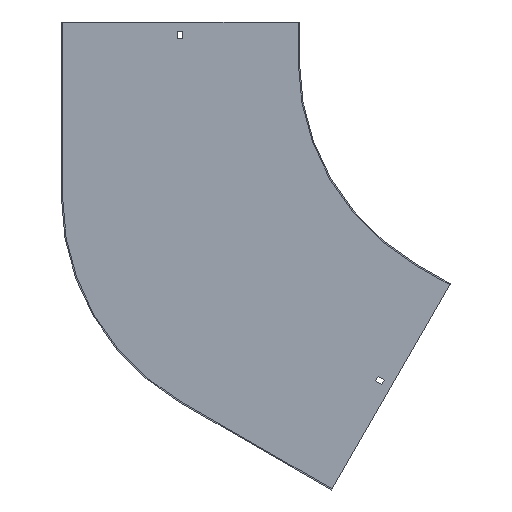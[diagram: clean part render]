
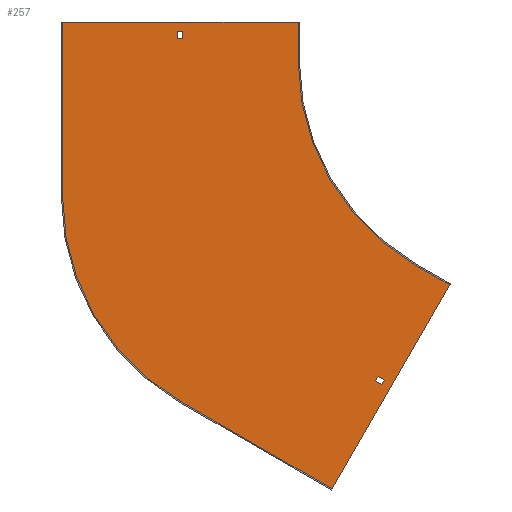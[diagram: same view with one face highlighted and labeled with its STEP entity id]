
A CAD part, front view. The second image highlights one B-rep face of the part: STEP entity #257.
In plain terms, the highlighted planar face has unit normal (0, -1, 0).
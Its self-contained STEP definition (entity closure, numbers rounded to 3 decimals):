
#1 = DIRECTION ( 'NONE',  ( 0., 0., -1. ) ) ;
#2 = ORIENTED_EDGE ( 'NONE', *, *, #575, .F. ) ;
#14 = CARTESIAN_POINT ( 'NONE',  ( -600., -1.5, -173.205 ) ) ;
#22 = VECTOR ( 'NONE', #772, 1000. ) ;
#29 = CARTESIAN_POINT ( 'NONE',  ( -600., -1.5, 50. ) ) ;
#32 = LINE ( 'NONE', #98, #22 ) ;
#35 = LINE ( 'NONE', #769, #748 ) ;
#40 = EDGE_CURVE ( 'NONE', #225, #345, #535, .T. ) ;
#46 = EDGE_CURVE ( 'NONE', #728, #669, #411, .T. ) ;
#67 = CARTESIAN_POINT ( 'NONE',  ( -453.25, -1.5, 0. ) ) ;
#89 = EDGE_CURVE ( 'NONE', #332, #242, #35, .T. ) ;
#94 = DIRECTION ( 'NONE',  ( -0.866, 0., 0.5 ) ) ;
#96 = ORIENTED_EDGE ( 'NONE', *, *, #595, .F. ) ;
#97 = DIRECTION ( 'NONE',  ( -0.866, 0., 0.5 ) ) ;
#98 = CARTESIAN_POINT ( 'NONE',  ( 25.115, -1.5, -14.5 ) ) ;
#104 = CARTESIAN_POINT ( 'NONE',  ( -256.699, -1.5, -544.615 ) ) ;
#109 = CARTESIAN_POINT ( 'NONE',  ( -198.26, -1.5, -401.397 ) ) ;
#115 = EDGE_CURVE ( 'NONE', #669, #511, #774, .T. ) ;
#123 = ORIENTED_EDGE ( 'NONE', *, *, #46, .F. ) ;
#125 = CARTESIAN_POINT ( 'NONE',  ( -226.625, -1.5, -392.526 ) ) ;
#148 = EDGE_CURVE ( 'NONE', #511, #229, #32, .T. ) ;
#149 = DIRECTION ( 'NONE',  ( 0., 0., -1. ) ) ;
#156 = DIRECTION ( 'NONE',  ( 0., 0., -1. ) ) ;
#162 = CARTESIAN_POINT ( 'NONE',  ( -223.375, -1.5, -386.897 ) ) ;
#166 = CARTESIAN_POINT ( 'NONE',  ( -446.75, -1.5, 38. ) ) ;
#168 = VECTOR ( 'NONE', #272, 1000. ) ;
#174 = CARTESIAN_POINT ( 'NONE',  ( -190.466, -1.5, -405.897 ) ) ;
#175 = EDGE_CURVE ( 'NONE', #519, #224, #675, .T. ) ;
#178 = EDGE_LOOP ( 'NONE', ( #468, #540, #622, #302 ) ) ;
#180 = VECTOR ( 'NONE', #631, 1000. ) ;
#185 = CARTESIAN_POINT ( 'NONE',  ( -150., -1.5, -259.808 ) ) ;
#197 = EDGE_LOOP ( 'NONE', ( #711, #123, #653, #730 ) ) ;
#198 = DIRECTION ( 'NONE',  ( 1., 0., 0. ) ) ;
#210 = PLANE ( 'NONE',  #431 ) ;
#212 = CARTESIAN_POINT ( 'NONE',  ( -453.25, -1.5, 38. ) ) ;
#214 = FACE_OUTER_BOUND ( 'NONE', #810, .T. ) ;
#219 = CARTESIAN_POINT ( 'NONE',  ( -450., -1.5, -433.013 ) ) ;
#221 = AXIS2_PLACEMENT_3D ( 'NONE', #713, #361, #660 ) ;
#224 = VERTEX_POINT ( 'NONE', #212 ) ;
#225 = VERTEX_POINT ( 'NONE', #219 ) ;
#229 = VERTEX_POINT ( 'NONE', #695 ) ;
#242 = VERTEX_POINT ( 'NONE', #343 ) ;
#257 = ADVANCED_FACE ( 'NONE', ( #681, #214, #576 ), #210, .T. ) ;
#260 = CARTESIAN_POINT ( 'NONE',  ( -300., -1.5, 50. ) ) ;
#272 = DIRECTION ( 'NONE',  ( 0., 0., 1. ) ) ;
#276 = ORIENTED_EDGE ( 'NONE', *, *, #40, .F. ) ;
#290 = DIRECTION ( 'NONE',  ( 0., -1., 0. ) ) ;
#302 = ORIENTED_EDGE ( 'NONE', *, *, #175, .T. ) ;
#306 = CARTESIAN_POINT ( 'NONE',  ( -106.699, -1.5, -284.808 ) ) ;
#313 = VECTOR ( 'NONE', #1, 1000. ) ;
#315 = CARTESIAN_POINT ( 'NONE',  ( 0., -1.5, 29. ) ) ;
#320 = LINE ( 'NONE', #315, #557 ) ;
#323 = VECTOR ( 'NONE', #632, 1000. ) ;
#332 = VERTEX_POINT ( 'NONE', #260 ) ;
#335 = CARTESIAN_POINT ( 'NONE',  ( -601.5, -1.5, 50. ) ) ;
#340 = CARTESIAN_POINT ( 'NONE',  ( 32.909, -1.5, -19. ) ) ;
#342 = DIRECTION ( 'NONE',  ( 0., 0., -1. ) ) ;
#343 = CARTESIAN_POINT ( 'NONE',  ( -300., -1.5, 0. ) ) ;
#345 = VERTEX_POINT ( 'NONE', #671 ) ;
#361 = DIRECTION ( 'NONE',  ( 0., -1., 0. ) ) ;
#373 = ORIENTED_EDGE ( 'NONE', *, *, #499, .F. ) ;
#379 = LINE ( 'NONE', #14, #168 ) ;
#384 = LINE ( 'NONE', #335, #180 ) ;
#385 = CARTESIAN_POINT ( 'NONE',  ( 0., -1.5, 38. ) ) ;
#387 = CARTESIAN_POINT ( 'NONE',  ( -453.25, -1.5, 29. ) ) ;
#392 = EDGE_CURVE ( 'NONE', #760, #332, #384, .T. ) ;
#411 = LINE ( 'NONE', #340, #323 ) ;
#413 = CARTESIAN_POINT ( 'NONE',  ( 0., -1.5, 0. ) ) ;
#426 = EDGE_CURVE ( 'NONE', #697, #519, #320, .T. ) ;
#431 = AXIS2_PLACEMENT_3D ( 'NONE', #413, #290, #342 ) ;
#446 = DIRECTION ( 'NONE',  ( -0.5, 0., -0.866 ) ) ;
#451 = DIRECTION ( 'NONE',  ( -1., 0., 0. ) ) ;
#452 = ORIENTED_EDGE ( 'NONE', *, *, #789, .F. ) ;
#455 = LINE ( 'NONE', #805, #778 ) ;
#459 = EDGE_CURVE ( 'NONE', #775, #697, #659, .T. ) ;
#461 = AXIS2_PLACEMENT_3D ( 'NONE', #757, #691, #149 ) ;
#468 = ORIENTED_EDGE ( 'NONE', *, *, #818, .T. ) ;
#472 = ORIENTED_EDGE ( 'NONE', *, *, #89, .F. ) ;
#488 = VECTOR ( 'NONE', #94, 1000. ) ;
#489 = VECTOR ( 'NONE', #509, 1000. ) ;
#499 = EDGE_CURVE ( 'NONE', #661, #566, #455, .T. ) ;
#509 = DIRECTION ( 'NONE',  ( 0.866, 0., -0.5 ) ) ;
#511 = VERTEX_POINT ( 'NONE', #109 ) ;
#519 = VERTEX_POINT ( 'NONE', #387 ) ;
#532 = LINE ( 'NONE', #125, #571 ) ;
#535 = CIRCLE ( 'NONE', #461, 300. ) ;
#539 = LINE ( 'NONE', #385, #614 ) ;
#540 = ORIENTED_EDGE ( 'NONE', *, *, #459, .T. ) ;
#557 = VECTOR ( 'NONE', #451, 1000. ) ;
#566 = VERTEX_POINT ( 'NONE', #647 ) ;
#571 = VECTOR ( 'NONE', #742, 1000. ) ;
#575 = EDGE_CURVE ( 'NONE', #862, #661, #652, .T. ) ;
#576 = FACE_BOUND ( 'NONE', #178, .T. ) ;
#595 = EDGE_CURVE ( 'NONE', #566, #225, #712, .T. ) ;
#604 = CARTESIAN_POINT ( 'NONE',  ( -446.75, -1.5, 29. ) ) ;
#613 = CIRCLE ( 'NONE', #221, 300. ) ;
#614 = VECTOR ( 'NONE', #198, 1000. ) ;
#622 = ORIENTED_EDGE ( 'NONE', *, *, #426, .T. ) ;
#627 = VECTOR ( 'NONE', #97, 1000. ) ;
#631 = DIRECTION ( 'NONE',  ( 1., 0., 0. ) ) ;
#632 = DIRECTION ( 'NONE',  ( 0.5, 0., 0.866 ) ) ;
#644 = ORIENTED_EDGE ( 'NONE', *, *, #847, .F. ) ;
#647 = CARTESIAN_POINT ( 'NONE',  ( -256.699, -1.5, -544.615 ) ) ;
#652 = LINE ( 'NONE', #776, #489 ) ;
#653 = ORIENTED_EDGE ( 'NONE', *, *, #826, .F. ) ;
#659 = LINE ( 'NONE', #723, #313 ) ;
#660 = DIRECTION ( 'NONE',  ( 0., 0., -1. ) ) ;
#661 = VERTEX_POINT ( 'NONE', #306 ) ;
#669 = VERTEX_POINT ( 'NONE', #174 ) ;
#671 = CARTESIAN_POINT ( 'NONE',  ( -600., -1.5, -173.205 ) ) ;
#673 = ORIENTED_EDGE ( 'NONE', *, *, #392, .F. ) ;
#675 = LINE ( 'NONE', #67, #692 ) ;
#681 = FACE_BOUND ( 'NONE', #197, .T. ) ;
#691 = DIRECTION ( 'NONE',  ( 0., 1., 0. ) ) ;
#692 = VECTOR ( 'NONE', #816, 1000. ) ;
#695 = CARTESIAN_POINT ( 'NONE',  ( -201.51, -1.5, -407.026 ) ) ;
#697 = VERTEX_POINT ( 'NONE', #604 ) ;
#711 = ORIENTED_EDGE ( 'NONE', *, *, #115, .F. ) ;
#712 = LINE ( 'NONE', #104, #627 ) ;
#713 = CARTESIAN_POINT ( 'NONE',  ( 0., -1.5, 0. ) ) ;
#723 = CARTESIAN_POINT ( 'NONE',  ( -446.75, -1.5, 0. ) ) ;
#728 = VERTEX_POINT ( 'NONE', #827 ) ;
#730 = ORIENTED_EDGE ( 'NONE', *, *, #148, .F. ) ;
#742 = DIRECTION ( 'NONE',  ( 0.866, 0., -0.5 ) ) ;
#748 = VECTOR ( 'NONE', #156, 1000. ) ;
#757 = CARTESIAN_POINT ( 'NONE',  ( -300., -1.5, -173.205 ) ) ;
#760 = VERTEX_POINT ( 'NONE', #29 ) ;
#769 = CARTESIAN_POINT ( 'NONE',  ( -300., -1.5, 50. ) ) ;
#772 = DIRECTION ( 'NONE',  ( -0.5, 0., -0.866 ) ) ;
#774 = LINE ( 'NONE', #162, #488 ) ;
#775 = VERTEX_POINT ( 'NONE', #166 ) ;
#776 = CARTESIAN_POINT ( 'NONE',  ( -150., -1.5, -259.808 ) ) ;
#778 = VECTOR ( 'NONE', #446, 1000. ) ;
#789 = EDGE_CURVE ( 'NONE', #242, #862, #613, .T. ) ;
#805 = CARTESIAN_POINT ( 'NONE',  ( -105.949, -1.5, -283.509 ) ) ;
#810 = EDGE_LOOP ( 'NONE', ( #673, #644, #276, #96, #373, #2, #452, #472 ) ) ;
#816 = DIRECTION ( 'NONE',  ( 0., 0., 1. ) ) ;
#818 = EDGE_CURVE ( 'NONE', #224, #775, #539, .T. ) ;
#826 = EDGE_CURVE ( 'NONE', #229, #728, #532, .T. ) ;
#827 = CARTESIAN_POINT ( 'NONE',  ( -193.716, -1.5, -411.526 ) ) ;
#847 = EDGE_CURVE ( 'NONE', #345, #760, #379, .T. ) ;
#862 = VERTEX_POINT ( 'NONE', #185 ) ;
